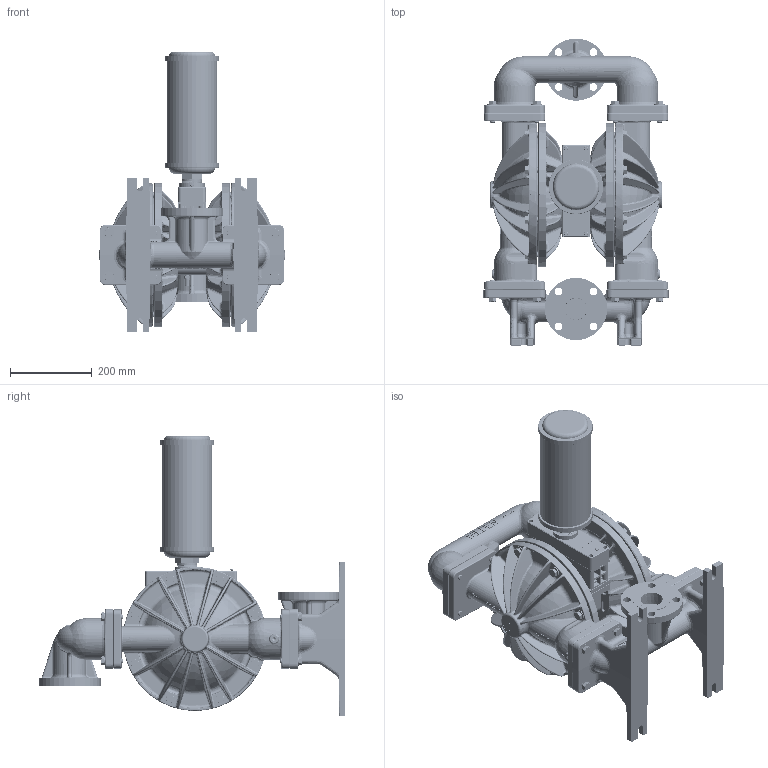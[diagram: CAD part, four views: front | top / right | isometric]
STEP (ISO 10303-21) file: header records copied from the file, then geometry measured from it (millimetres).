
FILE_DESCRIPTION (( 'STEP AP203' ), '1' );
FILE_NAME ('PS830_ADV_ALUMINUM_ANSI.STEP', '2022-06-15T07:41:57', ( '' ), ( '' ), 'SwSTEP 2.0', 'SolidWorks 2019', '' );
FILE_SCHEMA (( 'CONFIG_CONTROL_DESIGN' ));
Length unit declared in the file: inch
Products named in the file (1): PS830_ADV_ALUMINUM_ANSI
Bounding box: 453.45 x 751.59 x 686.69 mm (x, y, z)
Volume: 32773146.8 mm3; surface area: 2081047.9 mm2
Topology: 1 solids, 1 shells, 9421 faces, 23660 edges, 14620 vertices
Faces by surface type: plane 4381, bspline 2216, cylinder 1334, cone 621, torus 615, sphere 254
Entity records: 798327 total; most frequent: CARTESIAN_POINT 590521, ORIENTED_EDGE 47276, DIRECTION 37627, EDGE_CURVE 23638, VERTEX_POINT 14616, AXIS2_PLACEMENT_3D 13270, LINE 11087, VECTOR 11087
